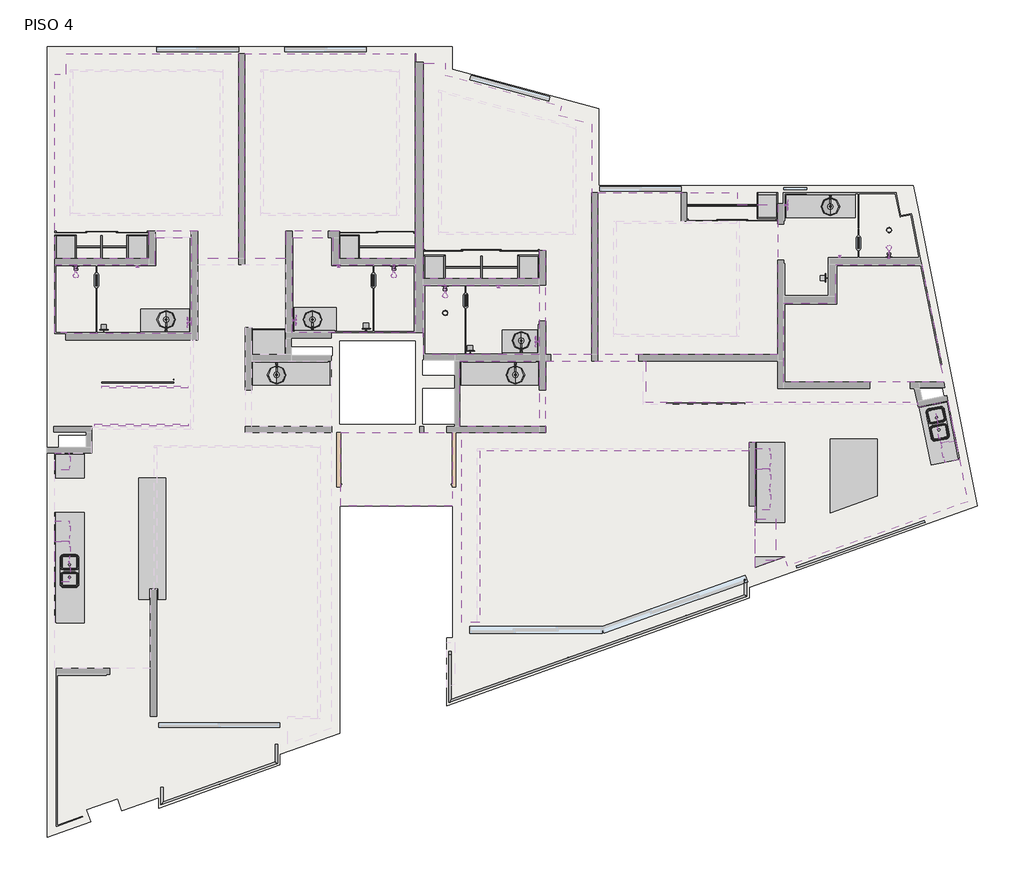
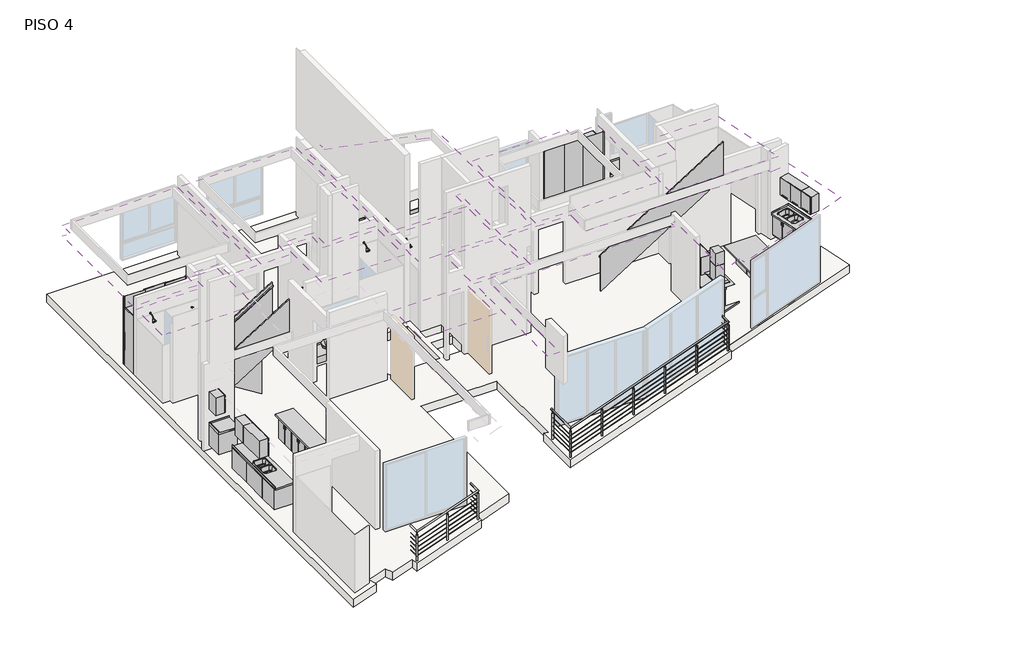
# One storey, part 3 of 3: 38 furniture elements, 36 flow terminals, 11 coverings, 6 railings, 1 proxy, 1 slab.
"""IFC4 building model written with IfcOpenShell, lengths in millimetres."""

from ifc_helpers import new_model, si_unit, frame, origin, place, context, project, spatial, polyline, outline, extrude, faceted_brep, transform, mapped, element, save
from components import specialty_equipment_e95493f8, flow_terminal_a2814962, flow_terminal_5cc0e8a1, flow_terminal_a7820e30, flow_terminal_68213279, flow_terminal_5f1bfaf6, flow_terminal_6c50e432, flow_terminal_979eccb3, flow_terminal_b4af5928, flow_terminal_bcb3a9d6, flow_terminal_02720d88, flow_terminal_70208929, flow_terminal_dbe0ad42, furniture_d9654537, furniture_f5ed3a1c, furniture_a8ddcfd3, furniture_af3adfe5, furniture_4c252591, furniture_695d730f, furniture_6c499260, furniture_ec71c28c, furniture_030b6b42, furniture_c1e19565, furniture_370_x_600_x_320_mm_8a8752ee, furniture_3900_mm_204c5ad0, furniture_450_x_600_x_320_mm_602578f4, furniture_450_x_600_x_320_mm_511ace29, furniture_450_x_600_x_320_mm_b980701e, furniture_550_mm_c334357f, furniture_576_mm_2875afa3, furniture_620_mm_497b6e52, furniture_680_mm_c6045463, furniture_7700_mm_prof_40_e6cee792, furniture_820_mm_546e8a10, furniture_900_mm_f7b05b38, furniture_900_x_600_x_320_mm_ed7ff752, furniture_900_x_600_x_320_mm_dd102760, furniture_900_x_600_x_320_mm_fdf49008, cl05_4e4fac43, cl2_closet_fc385fcd, cl3_closet_a3c0aced, cl7_closet_1ca2be92, cl8_closet_76781ce9, cubierta10_cubierta_a88932da, cubierta9_cubierta_ee915b3e, railing_adf64244, railing_0f025872, panel_de_vidrio_5a464c72, panel_de_vidrio_5ddb8d8d, panel_de_vidrio_1d52b6bb, panel_de_vidrio_07b2d974

model = new_model("IFC4")

# Units and contexts
model_context = context("Model", 3, world=origin())
ifc_project = project(units=[si_unit("LENGTHUNIT", "METRE", prefix="MILLI")], contexts=[model_context])

# Site, building, storey
site = spatial("IfcSite", under=ifc_project)
building = spatial("IfcBuilding", under=site)
storey = spatial("IfcBuildingStorey", under=building, Name="PISO 4", Elevation=12000.0)

# Proxy
placement = place(None, origin())
specialty_equipment_shape = specialty_equipment_e95493f8(model_context)
element("IfcBuildingElementProxy", 1, Name="Campana rectangular - muro : Campana rectangular - muro", ObjectType="Campana rectangular - muro : Campana rectangular - muro", at=placement, inside=storey, context=model_context, shape_type="MappedRepresentation", body=[
    mapped(specialty_equipment_shape, transform((49717.8559119, 27368.0993789, 12250.0), x_axis=(0.0, 1.0, 0.0), y_axis=(-1.0, 0.0, 0.0), z_axis=(0.0, 0.0, 1.0))),
])

# Coverings
element("IfcCovering", 2, ObjectType="Plafond Tablaroca", at=placement, inside=storey, context=model_context, shape_type="SweptSolid", body=[
    extrude(outline(polyline([(36214.5300226, 34168.9785701), (36214.5300226, 33568.9784839), (34143.8589874, 33568.9784839), (34143.8589874, 37625.4026232), (34398.8589874, 37625.4026232), (34398.8589874, 38080.4026232), (38194.5300226, 38080.4026232), (38194.5300226, 33568.9784839), (37294.5300226, 33568.9784839), (37294.5300226, 34168.9785701), (36214.5300226, 34168.9785701)]), holes=[polyline([(34543.8589874, 34568.9785701), (37794.5300226, 34568.9785701), (37794.5300226, 37680.4026232), (34543.8589874, 37680.4026232), (34543.8589874, 34568.9785701)])]), frame((0.0, 0.0, 14350.0), z_axis=(0.0, 0.0, 1.0), x_axis=(1.0, 0.0, 0.0)), (0.0, 0.0, 1.0), 52.7),
])
element("IfcCovering", 3, ObjectType="Plafond Tablaroca", at=placement, inside=storey, context=model_context, shape_type="SweptSolid", body=[
    extrude(outline(polyline([(38334.5300226, 38080.4026232), (42084.5059119, 38080.4026232), (42084.5059119, 33568.9784839), (40409.5059119, 33568.9784839), (40409.5059119, 34168.9785701), (39234.5300226, 34168.9785701), (39234.5300226, 33568.9784839), (38334.5300226, 33568.9784839), (38334.5300226, 38080.4026232)]), holes=[polyline([(38734.5300226, 37680.4026232), (38734.5300226, 34568.9785701), (41684.5059119, 34568.9785701), (41684.5059119, 37680.4026232), (38734.5300226, 37680.4026232)])]), frame((0.0, 0.0, 14350.0), z_axis=(0.0, 0.0, 1.0), x_axis=(1.0, 0.0, 0.0)), (0.0, 0.0, 1.0), 52.7),
])
element("IfcCovering", 4, ObjectType="Plafond Tablaroca", at=placement, inside=storey, context=model_context, shape_type="SweptSolid", body=[
    extrude(outline(polyline([(42084.5059119, 31933.9733508), (40329.5059119, 31933.9733508), (39374.5300226, 31933.9733508), (39374.5300226, 34028.9785701), (40269.5059119, 34028.9785701), (40269.5059119, 33428.9784839), (42084.5059119, 33428.9784839), (42084.5059119, 31933.9733508)])), frame((0.0, 0.0, 14350.0), z_axis=(0.0, 0.0, 1.0), x_axis=(1.0, 0.0, 0.0)), (0.0, 0.0, 1.0), 52.7),
])
element("IfcCovering", 5, ObjectType="Plafond Tablaroca", at=placement, inside=storey, context=model_context, shape_type="SweptSolid", body=[
    extrude(outline(polyline([(36354.5300226, 33428.9784839), (36354.5300226, 34028.9785701), (37149.5300226, 34028.9785701), (37154.5300226, 34028.9785701), (37154.5300226, 31908.9733508), (34403.8589874, 31908.9733508), (34403.8589874, 31928.9733508), (34143.8589874, 31928.9733508), (34143.8589874, 33428.9784839), (36354.5300226, 33428.9784839)])), frame((0.0, 0.0, 14350.0), z_axis=(0.0, 0.0, 1.0), x_axis=(1.0, 0.0, 0.0)), (0.0, 0.0, 1.0), 52.7),
])
element("IfcCovering", 6, ObjectType="Plafond Tablaroca", at=placement, inside=storey, context=model_context, shape_type="SweptSolid", body=[
    extrude(outline(polyline([(43014.5059119, 31444.0104755), (42279.5059119, 31444.0104755), (42279.5059119, 31838.9733508), (42264.5059119, 31838.9733508), (42264.5059119, 32984.0113856), (44824.5251366, 32984.0113856), (44824.5251366, 31444.0104755), (43014.5059119, 31444.0104755)])), frame((0.0, 0.0, 14350.0), z_axis=(0.0, 0.0, 1.0), x_axis=(1.0, 0.0, 0.0)), (0.0, 0.0, 1.0), 52.7),
])
element("IfcCovering", 7, ObjectType="Plafond Tablaroca", at=placement, inside=storey, context=model_context, shape_type="SweptSolid", body=[
    extrude(outline(polyline([(44824.5251366, 31304.0104755), (44824.5251366, 29864.010184), (43074.5059119, 29864.010184), (43074.5059119, 31304.0104755), (44824.5251366, 31304.0104755)])), frame((0.0, 0.0, 14350.0), z_axis=(0.0, 0.0, 1.0), x_axis=(1.0, 0.0, 0.0)), (0.0, 0.0, 1.0), 52.7),
])
element("IfcCovering", 8, ObjectType="Plafond Tablaroca", at=placement, inside=storey, context=model_context, shape_type="SweptSolid", body=[
    extrude(outline(polyline([(45253.4028147, 36725.1514674), (45974.5059119, 36531.2471191), (45974.5059119, 35104.0104642), (45974.5059119, 31444.0104696), (44964.5251366, 31444.0104696), (44964.5251366, 33744.0113905), (44824.5251366, 33744.0113905), (44824.5251366, 33124.0113856), (42264.5059119, 33124.0113856), (42264.5059119, 37875.4026232), (42744.5059119, 37875.4026232), (42744.5059119, 37612.0750171), (45306.6362479, 36923.1191455), (45253.4028147, 36725.1514674)]), holes=[polyline([(42664.5059119, 37219.3779563), (42664.5059119, 34144.0113905), (45574.5059119, 34144.0113905), (45574.5059119, 36436.8800645), (42664.5059119, 37219.3779563)])]), frame((0.0, 0.0, 14350.0), z_axis=(0.0, 0.0, 1.0), x_axis=(1.0, 0.0, 0.0)), (0.0, 0.0, 1.0), 52.7),
])
element("IfcCovering", 9, ObjectType="Plafond Tablaroca", at=placement, inside=storey, context=model_context, shape_type="SweptSolid", body=[
    extrude(outline(polyline([(46114.5059119, 31444.0104696), (46114.5059119, 35014.0104642), (49179.4822189, 35014.0104642), (49179.4822189, 34759.0104642), (50074.4822189, 34759.0104642), (50074.4822189, 31444.0104696), (46114.5059119, 31444.0104696)]), holes=[polyline([(46514.5059119, 34337.6604642), (46514.5059119, 31896.7104696), (49174.4822189, 31896.7104696), (49174.4822189, 34337.6604642), (46514.5059119, 34337.6604642)])]), frame((0.0, 0.0, 14350.0), z_axis=(0.0, 0.0, 1.0), x_axis=(1.0, 0.0, 0.0)), (0.0, 0.0, 1.0), 52.7),
])
element("IfcCovering", 10, ObjectType="Plafond Tablaroca", at=placement, inside=storey, context=model_context, shape_type="SweptSolid", body=[
    extrude(outline(polyline([(52931.8709868, 35014.0104642), (53221.2947578, 33568.9784839), (51214.4822189, 33568.9784839), (51214.4822189, 32724.0113781), (50214.4822189, 32724.0113781), (50214.4822189, 35014.0104642), (52931.8709868, 35014.0104642)])), frame((0.0, 0.0, 14350.0), z_axis=(0.0, 0.0, 1.0), x_axis=(1.0, 0.0, 0.0)), (0.0, 0.0, 1.0), 52.7),
    extrude(outline(polyline([(50214.4822189, 32584.0113781), (51354.4822189, 32584.0113781), (51354.4822189, 33428.9784839), (53249.3351946, 33428.9784839), (53689.1186644, 31233.2321699), (53659.7028791, 31227.3405166), (53736.479683, 30844.0100923), (50214.4822189, 30844.0100923), (50214.4822189, 32584.0113781)])), frame((0.0, 0.0, 14350.0), z_axis=(0.0, 0.0, 1.0), x_axis=(1.0, 0.0, 0.0)), (0.0, 0.0, 1.0), 52.7),
])
element("IfcCovering", 11, ObjectType="Plafond Tablaroca", at=placement, inside=storey, context=model_context, shape_type="Brep", body=[
    faceted_brep([(44964.5251366, 31304.0104696, 14402.7), (44964.5251366, 29724.010184, 14402.7), (43109.5059119, 29724.010184, 14402.7), (43109.5059119, 25545.2541962, 14402.7), (43509.5059119, 25545.2541962, 14402.7), (43509.5059119, 29324.010184, 14402.7), (49444.5059119, 29324.010184, 14402.7), (49444.5059119, 29504.0104696, 14402.7), (49584.5059119, 29504.0104696, 14402.7), (49584.5059119, 26757.929668, 14402.7), (50230.4085675, 26988.0993789, 14402.7), (50300.9007209, 26790.2841715, 14402.7), (54265.4326509, 28203.0592396, 14402.7), (53820.4344465, 30424.8416261, 14402.7), (53171.4946911, 30294.866239, 14402.7), (53160.1895419, 30351.3104696, 14402.7), (53149.6343204, 30404.0104696, 14402.7), (47170.8645778, 30404.0104696, 14402.7), (47170.8645778, 31304.0104696, 14402.7), (47118.1645778, 31304.0104696, 14402.7), (44964.5251366, 31304.0104696, 14350.0), (47170.8645778, 31304.0104696, 14350.0), (47170.8645778, 30404.0104696, 14350.0), (53149.6343204, 30404.0104696, 14350.0), (53171.4946911, 30294.866239, 14350.0), (53820.4344465, 30424.8416261, 14350.0), (54265.4326509, 28203.0592396, 14350.0), (50300.9007209, 26790.2841715, 14350.0), (50230.4085675, 26988.0993789, 14350.0), (49584.5059119, 26757.929668, 14350.0), (49584.5059119, 29504.0104696, 14350.0), (49444.5059119, 29504.0104696, 14350.0), (49444.5059119, 29324.010184, 14350.0), (43509.5059119, 29324.010184, 14350.0), (43509.5059119, 25545.2541962, 14350.0), (43109.5059119, 25545.2541962, 14350.0), (43109.5059119, 29724.010184, 14350.0), (44964.5251366, 29724.010184, 14350.0)], [[[0, 1, 2, 3, 4, 5, 6, 7, 8, 9, 10, 11, 12, 13, 14, 15, 16, 17, 18, 19]], [[20, 21, 22, 23, 24, 25, 26, 27, 28, 29, 30, 31, 32, 33, 34, 35, 36, 37]], [[1, 0, 20, 37]], [[6, 5, 33, 32]], [[7, 6, 32, 31]], [[8, 7, 31, 30]], [[9, 8, 30, 29]], [[10, 9, 29, 28]], [[11, 10, 28, 27]], [[12, 11, 27, 26]], [[17, 16, 23, 22]], [[18, 17, 22, 21]], [[0, 19, 18, 21, 20]], [[2, 1, 37, 36]], [[3, 2, 36, 35]], [[4, 3, 35, 34]], [[5, 4, 34, 33]], [[13, 12, 26, 25]], [[14, 13, 25, 24]], [[16, 15, 14, 24, 23]]]),
])
element("IfcCovering", 12, ObjectType="Plafond Tablaroca", at=placement, inside=storey, context=model_context, shape_type="SweptSolid", body=[
    extrude(outline(polyline([(42899.5059119, 29724.010184), (42899.5059119, 28111.0432167), (40444.5059119, 28111.0432167), (40444.5059119, 29724.010184), (42899.5059119, 29724.010184)])), frame((0.0, 0.0, 14350.0), z_axis=(0.0, 0.0, 1.0), x_axis=(1.0, 0.0, 0.0)), (0.0, 0.0, 1.0), 52.7),
])

# Flow terminals
flow_terminal_shape = flow_terminal_a2814962(model_context)
element("IfcFlowTerminal", 13, ObjectType="Ovalin sobreponer maia - vitromex : Accesorios_baño", at=placement, inside=storey, context=model_context, shape_type="MappedRepresentation", body=[
    mapped(flow_terminal_shape, transform((39824.5300226, 32218.9733508, 12000.0), x_axis=(0.0, 1.0, 0.0), y_axis=(-1.0, 0.0, 0.0), z_axis=(0.0, 0.0, 1.0))),
])
element("IfcFlowTerminal", 14, ObjectType="Ovalin sobreponer maia - vitromex : Accesorios_baño", at=placement, inside=storey, context=model_context, shape_type="MappedRepresentation", body=[
    mapped(flow_terminal_shape, transform((44294.5059119, 31001.9733508, 12000.0), x_axis=(0.0, -1.0, 0.0), y_axis=(1.0, 0.0, 0.0), z_axis=(0.0, 0.0, 1.0))),
])
element("IfcFlowTerminal", 15, ObjectType="Ovalin sobreponer maia - vitromex : Accesorios_baño", at=placement, inside=storey, context=model_context, shape_type="MappedRepresentation", body=[
    mapped(flow_terminal_shape, transform((44424.5034689, 31754.0104755, 12000.0), x_axis=(0.0, 1.0, 0.0), y_axis=(-1.0, 0.0, 0.0), z_axis=(0.0, 0.0, 1.0))),
])
element("IfcFlowTerminal", 16, ObjectType="Ovalin sobreponer maia - vitromex : Accesorios_baño", at=placement, inside=storey, context=model_context, shape_type="MappedRepresentation", body=[
    mapped(flow_terminal_shape, transform((51235.5561795, 34711.9733381, 12000.0), x_axis=(0.0, -1.0, 0.0), y_axis=(1.0, 0.0, 0.0), z_axis=(0.0, 0.0, 1.0))),
])
flow_terminal_2_shape = flow_terminal_5cc0e8a1(model_context)
element("IfcFlowTerminal", 17, ObjectType="monomando lavabo - tubo : monomando lavabo - tubo", at=placement, inside=storey, context=model_context, shape_type="MappedRepresentation", body=[
    mapped(flow_terminal_2_shape, transform((39824.5300226, 31978.9733508, 12000.0), x_axis=(-1.0, 0.0, 0.0), y_axis=(0.0, -1.0, 0.0), z_axis=(0.0, 0.0, 1.0))),
])
element("IfcFlowTerminal", 18, ObjectType="monomando lavabo - tubo : monomando lavabo - tubo", at=placement, inside=storey, context=model_context, shape_type="MappedRepresentation", body=[
    mapped(flow_terminal_2_shape, transform((44294.5059119, 31241.9733508, 12000.0), x_axis=(1.0, 0.0, 0.0), y_axis=(0.0, 1.0, 0.0), z_axis=(0.0, 0.0, 1.0))),
])
element("IfcFlowTerminal", 19, ObjectType="monomando lavabo - tubo : monomando lavabo - tubo", at=placement, inside=storey, context=model_context, shape_type="MappedRepresentation", body=[
    mapped(flow_terminal_2_shape, transform((44424.5034689, 31514.0104755, 12000.0), x_axis=(-1.0, 0.0, 0.0), y_axis=(0.0, -1.0, 0.0), z_axis=(0.0, 0.0, 1.0))),
])
element("IfcFlowTerminal", 20, ObjectType="monomando lavabo - tubo : monomando lavabo - tubo", at=placement, inside=storey, context=model_context, shape_type="MappedRepresentation", body=[
    mapped(flow_terminal_2_shape, transform((51235.5561795, 34951.9733381, 12000.0), x_axis=(1.0, 0.0, 0.0), y_axis=(0.0, 1.0, 0.0), z_axis=(0.0, 0.0, 1.0))),
])
flow_terminal_3_shape = flow_terminal_a7820e30(model_context)
element("IfcFlowTerminal", 21, ObjectType="monomando lavabo - tubo : monomando lavabo - tubo", at=placement, inside=storey, context=model_context, shape_type="MappedRepresentation", body=[
    mapped(flow_terminal_3_shape, transform((39034.5059119, 31241.9733508, 12000.0), x_axis=(-1.0, 0.0, 0.0), y_axis=(0.0, -1.0, 0.0), z_axis=(0.0, 0.0, 1.0))),
])
element("IfcFlowTerminal", 22, ObjectType="monomando lavabo - tubo : monomando lavabo - tubo", at=placement, inside=storey, context=model_context, shape_type="MappedRepresentation", body=[
    mapped(flow_terminal_3_shape, transform((36599.1945851, 31978.9733508, 12000.0), x_axis=(1.0, 0.0, 0.0), y_axis=(0.0, 1.0, 0.0), z_axis=(0.0, 0.0, 1.0))),
])
flow_terminal_4_shape = flow_terminal_68213279(model_context)
element("IfcFlowTerminal", 23, ObjectType="Ovalin sobreponer maia - vitromex : Accesorios_baño", at=placement, inside=storey, context=model_context, shape_type="MappedRepresentation", body=[
    mapped(flow_terminal_4_shape, transform((39034.5059119, 31001.9733508, 12000.0), x_axis=(0.0, -1.0, 0.0), y_axis=(1.0, 0.0, 0.0), z_axis=(0.0, 0.0, 1.0))),
])
element("IfcFlowTerminal", 24, ObjectType="Ovalin sobreponer maia - vitromex : Accesorios_baño", at=placement, inside=storey, context=model_context, shape_type="MappedRepresentation", body=[
    mapped(flow_terminal_4_shape, transform((36599.1945851, 32218.9733508, 12000.0), x_axis=(0.0, 1.0, 0.0), y_axis=(-1.0, 0.0, 0.0), z_axis=(0.0, 0.0, 1.0))),
])
flow_terminal_5_shape = flow_terminal_5f1bfaf6(model_context)
element("IfcFlowTerminal", 25, ObjectType="Regadera : Accesorios_baño", at=placement, inside=storey, context=model_context, shape_type="MappedRepresentation", body=[
    mapped(flow_terminal_5_shape, transform((34734.5300226, 33498.9784839, 12151.7905899), x_axis=(-1.0, 0.0, 0.0), y_axis=(0.0, -1.0, 0.0), z_axis=(0.0, 0.0, 1.0))),
])
flow_terminal_6_shape = flow_terminal_6c50e432(model_context)
element("IfcFlowTerminal", 26, ObjectType="Portarrollo Dica 1017 : Portarrollos Dica 1017", at=placement, inside=storey, context=model_context, shape_type="MappedRepresentation", body=[
    mapped(flow_terminal_6_shape, transform((35099.5300226, 31918.9733508, 12502.2787162), x_axis=(1.0, 0.0, 0.0), y_axis=(0.0, 1.0, 0.0), z_axis=(0.0, 0.0, 1.0))),
])
element("IfcFlowTerminal", 27, ObjectType="Portarrollo Dica 1017 : Portarrollos Dica 1017", at=placement, inside=storey, context=model_context, shape_type="MappedRepresentation", body=[
    mapped(flow_terminal_6_shape, transform((40879.5059119, 31943.9733508, 12502.2787162), x_axis=(1.0, 0.0, 0.0), y_axis=(0.0, 1.0, 0.0), z_axis=(0.0, 0.0, 1.0))),
])
element("IfcFlowTerminal", 28, ObjectType="Portarrollo Dica 1017 : Portarrollos Dica 1017", at=placement, inside=storey, context=model_context, shape_type="MappedRepresentation", body=[
    mapped(flow_terminal_6_shape, transform((51204.4822189, 33009.0113781, 12502.2787162), x_axis=(0.0, 1.0, 0.0), y_axis=(-1.0, 0.0, 0.0), z_axis=(0.0, 0.0, 1.0))),
])
element("IfcFlowTerminal", 29, ObjectType="Portarrollo Dica 1017 : Portarrollos Dica 1017", at=placement, inside=storey, context=model_context, shape_type="MappedRepresentation", body=[
    mapped(flow_terminal_6_shape, transform((43174.5059119, 31454.0104755, 12502.2787162), x_axis=(1.0, 0.0, 0.0), y_axis=(0.0, 1.0, 0.0), z_axis=(0.0, 0.0, 1.0))),
])
flow_terminal_7_shape = flow_terminal_979eccb3(model_context)
element("IfcFlowTerminal", 30, ObjectType="Monomando Dica 4473.9 : Accesorios_baño", at=placement, inside=storey, context=model_context, shape_type="MappedRepresentation", body=[
    mapped(flow_terminal_7_shape, transform((34734.5300226, 33418.9784839, 12000.0), x_axis=(-1.0, 0.0, 0.0), y_axis=(0.0, -1.0, 0.0), z_axis=(0.0, 0.0, 1.0))),
])
element("IfcFlowTerminal", 31, ObjectType="Monomando Dica 4473.9 : Accesorios_baño", at=placement, inside=storey, context=model_context, shape_type="MappedRepresentation", body=[
    mapped(flow_terminal_7_shape, transform((41742.2559119, 33418.9784839, 12000.0), x_axis=(-1.0, 0.0, 0.0), y_axis=(0.0, -1.0, 0.0), z_axis=(0.0, 0.0, 1.0))),
])
element("IfcFlowTerminal", 32, ObjectType="Monomando Dica 4473.9 : Accesorios_baño", at=placement, inside=storey, context=model_context, shape_type="MappedRepresentation", body=[
    mapped(flow_terminal_7_shape, transform((52404.6417693, 33578.9784839, 12000.0), x_axis=(1.0, 0.0, 0.0), y_axis=(0.0, 1.0, 0.0), z_axis=(0.0, 0.0, 1.0))),
])
element("IfcFlowTerminal", 33, ObjectType="Monomando Dica 4473.9 : Accesorios_baño", at=placement, inside=storey, context=model_context, shape_type="MappedRepresentation", body=[
    mapped(flow_terminal_7_shape, transform((42871.7559119, 32974.0113856, 12000.0), x_axis=(-1.0, 0.0, 0.0), y_axis=(0.0, -1.0, 0.0), z_axis=(0.0, 0.0, 1.0))),
])
flow_terminal_8_shape = flow_terminal_b4af5928(model_context)
element("IfcFlowTerminal", 34, ObjectType="Coladera : COLADERA PARA REGADERA", at=placement, inside=storey, context=model_context, shape_type="MappedRepresentation", body=[
    mapped(flow_terminal_8_shape, transform((52529.6417693, 34191.7697606, 12000.0), x_axis=(1.0, 0.0, 0.0), y_axis=(0.0, 1.0, 0.0), z_axis=(0.0, 0.0, 1.0))),
])
flow_terminal_9_shape = flow_terminal_bcb3a9d6(model_context)
element("IfcFlowTerminal", 35, ObjectType="Toallero gancho Dica 1006 : Toallero gancho Dica 1006", at=placement, inside=storey, context=model_context, shape_type="MappedRepresentation", body=[
    mapped(flow_terminal_9_shape, transform((40524.5059119, 33418.9784839, 13795.0), x_axis=(-1.0, 0.0, 0.0), y_axis=(0.0, -1.0, 0.0), z_axis=(0.0, 0.0, 1.0))),
])
element("IfcFlowTerminal", 36, ObjectType="Toallero gancho Dica 1006 : Toallero gancho Dica 1006", at=placement, inside=storey, context=model_context, shape_type="MappedRepresentation", body=[
    mapped(flow_terminal_9_shape, transform((51319.4822189, 33578.9784839, 13795.0), x_axis=(1.0, 0.0, 0.0), y_axis=(0.0, 1.0, 0.0), z_axis=(0.0, 0.0, 1.0))),
])
element("IfcFlowTerminal", 37, ObjectType="Toallero gancho Dica 1006 : Toallero gancho Dica 1006", at=placement, inside=storey, context=model_context, shape_type="MappedRepresentation", body=[
    mapped(flow_terminal_9_shape, transform((36089.5300226, 33418.9784839, 13795.0), x_axis=(-1.0, 0.0, 0.0), y_axis=(0.0, -1.0, 0.0), z_axis=(0.0, 0.0, 1.0))),
])
element("IfcFlowTerminal", 38, ObjectType="Toallero gancho Dica 1006 : Toallero gancho Dica 1006", at=placement, inside=storey, context=model_context, shape_type="MappedRepresentation", body=[
    mapped(flow_terminal_9_shape, transform((44044.5059119, 32974.0113856, 13795.0), x_axis=(-1.0, 0.0, 0.0), y_axis=(0.0, -1.0, 0.0), z_axis=(0.0, 0.0, 1.0))),
])
element("IfcFlowTerminal", 39, ObjectType="Regadera : Accesorios_baño", at=placement, inside=storey, context=model_context, shape_type="MappedRepresentation", body=[
    mapped(flow_terminal_5_shape, transform((42871.7559119, 33054.0113856, 12151.7905899), x_axis=(-1.0, 0.0, 0.0), y_axis=(0.0, -1.0, 0.0), z_axis=(0.0, 0.0, 1.0))),
])
flow_terminal_10_shape = flow_terminal_02720d88(model_context)
element("IfcFlowTerminal", 40, ObjectType="Toallero Dica 1009 : Toallero Dica manos 1009", at=placement, inside=storey, context=model_context, shape_type="MappedRepresentation", body=[
    mapped(flow_terminal_10_shape, transform((39384.5300226, 32328.9733508, 13548.657459), x_axis=(0.0, -1.0, 0.0), y_axis=(1.0, 0.0, 0.0), z_axis=(0.0, 0.0, 1.0))),
])
element("IfcFlowTerminal", 41, ObjectType="Toallero Dica 1009 : Toallero Dica manos 1009", at=placement, inside=storey, context=model_context, shape_type="MappedRepresentation", body=[
    mapped(flow_terminal_10_shape, transform((50224.4822189, 34869.0104642, 13548.657459), x_axis=(0.0, -1.0, 0.0), y_axis=(1.0, 0.0, 0.0), z_axis=(0.0, 0.0, 1.0))),
])
element("IfcFlowTerminal", 42, ObjectType="Toallero Dica 1009 : Toallero Dica manos 1009", at=placement, inside=storey, context=model_context, shape_type="MappedRepresentation", body=[
    mapped(flow_terminal_10_shape, transform((37144.5300226, 32033.9733508, 13548.657459), x_axis=(0.0, 1.0, 0.0), y_axis=(-1.0, 0.0, 0.0), z_axis=(0.0, 0.0, 1.0))),
])
element("IfcFlowTerminal", 43, ObjectType="Toallero Dica 1009 : Toallero Dica manos 1009", at=placement, inside=storey, context=model_context, shape_type="MappedRepresentation", body=[
    mapped(flow_terminal_10_shape, transform((44814.5251366, 31609.0104755, 13548.657459), x_axis=(0.0, 1.0, 0.0), y_axis=(-1.0, 0.0, 0.0), z_axis=(0.0, 0.0, 1.0))),
])
flow_terminal_11_shape = flow_terminal_70208929(model_context)
element("IfcFlowTerminal", 44, ObjectType="Regadera : Accesorios_baño", at=placement, inside=storey, context=model_context, shape_type="MappedRepresentation", body=[
    mapped(flow_terminal_11_shape, transform((41492.0059119, 33498.9784839, 12151.7905899), x_axis=(1.0, 0.0, 0.0), y_axis=(0.0, 1.0, 0.0), z_axis=(0.0, 0.0, 1.0))),
])
element("IfcFlowTerminal", 45, ObjectType="Regadera : Accesorios_baño", at=placement, inside=storey, context=model_context, shape_type="MappedRepresentation", body=[
    mapped(flow_terminal_11_shape, transform((52654.6417693, 33498.9784839, 12151.7905899), x_axis=(-1.0, 0.0, 0.0), y_axis=(0.0, -1.0, 0.0), z_axis=(0.0, 0.0, 1.0))),
])
element("IfcFlowTerminal", 46, ObjectType="Coladera : COLADERA PARA REGADERA", at=placement, inside=storey, context=model_context, shape_type="MappedRepresentation", body=[
    mapped(flow_terminal_8_shape, transform((42746.7559119, 32364.0113856, 12000.0), x_axis=(1.0, 0.0, 0.0), y_axis=(0.0, 1.0, 0.0), z_axis=(0.0, 0.0, 1.0))),
])
flow_terminal_12_shape = flow_terminal_dbe0ad42(model_context)
element("IfcFlowTerminal", 47, ObjectType="Tarja Teka subm BE 780 : TARJA PARA COCINA", at=placement, inside=storey, context=model_context, shape_type="MappedRepresentation", body=[
    mapped(flow_terminal_12_shape, transform((53571.4107011, 29973.3328781, 11962.9), x_axis=(0.19638844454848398, -0.9805261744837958, 0.0), y_axis=(0.9805261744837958, 0.19638844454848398, 0.0), z_axis=(0.0, 0.0, 1.0))),
])
element("IfcFlowTerminal", 48, ObjectType="Tarja Teka subm BE 780 : TARJA PARA COCINA", at=placement, inside=storey, context=model_context, shape_type="MappedRepresentation", body=[
    mapped(flow_terminal_12_shape, transform((34489.2043886, 26620.3209435, 11962.9), x_axis=(0.0, 1.0000000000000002, 0.0), y_axis=(-1.0000000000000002, 0.0, 0.0), z_axis=(0.0, 0.0, 1.0))),
])

# Furniture
furniture_shape = furniture_d9654537(model_context)
element("IfcFurniture", 49, ObjectType="Mueble con faldon sin cajones - lavabo sobreponer : MB8-mueble baño colgado- 1.75cm", at=placement, inside=storey, context=model_context, shape_type="MappedRepresentation", body=[
    mapped(furniture_shape, transform((39484.5059119, 31364.0104769, 12000.0), x_axis=(-1.0, 0.0, 0.0), y_axis=(0.0, -1.0, 0.0), z_axis=(0.0, 0.0, 1.0))),
])
furniture_2_shape = furniture_f5ed3a1c(model_context)
element("IfcFurniture", 50, ObjectType="Puerta Closet corre 3 hojas : Puerta corrdiza 3 hojas PCL-07", at=placement, inside=storey, context=model_context, shape_type="MappedRepresentation", body=[
    mapped(furniture_2_shape, transform((35433.8589874, 34048.9785701, 12000.0), x_axis=(1.0, 0.0, 0.0), y_axis=(0.0, 1.0, 0.0), z_axis=(0.0, 0.0, 1.0))),
])
furniture_3_shape = furniture_a8ddcfd3(model_context)
element("IfcFurniture", 51, ObjectType="Puerta Closet corre 3 hojas : Puerta corrdiza 3 hojas PCL-02", at=placement, inside=storey, context=model_context, shape_type="MappedRepresentation", body=[
    mapped(furniture_3_shape, transform((43554.5251366, 33644.0113856, 12000.0), x_axis=(1.0, 0.0, 0.0), y_axis=(0.0, 1.0, 0.0), z_axis=(0.0, 0.0, 1.0))),
])
furniture_4_shape = furniture_af3adfe5(model_context)
element("IfcFurniture", 52, ObjectType="Puerta Closet corre 2 hojas : Puerta corrdiza 2 hojas", at=placement, inside=storey, context=model_context, shape_type="MappedRepresentation", body=[
    mapped(furniture_4_shape, transform((41784.5059119, 34048.9785701, 12000.0), x_axis=(1.0, 0.0, 0.0), y_axis=(0.0, 1.0, 0.0), z_axis=(0.0, 0.0, 1.0))),
])
furniture_5_shape = furniture_4c252591(model_context)
element("IfcFurniture", 53, ObjectType="Puerta Closet corre 3 hojas : Puerta corrdiza 3 hojas PCL-08", at=placement, inside=storey, context=model_context, shape_type="MappedRepresentation", body=[
    mapped(furniture_5_shape, transform((49361.9059119, 34310.3604642, 12000.0), x_axis=(1.0, 0.0, 0.0), y_axis=(0.0, 1.0, 0.0), z_axis=(0.0, 0.0, 1.0))),
])
furniture_6_shape = furniture_695d730f(model_context)
element("IfcFurniture", 54, ObjectType="Mueble colgado 1 cajon - lavabo sobreponer : MB4-mueble baño colgado-1 cajon 80 cm", at=placement, inside=storey, context=model_context, shape_type="MappedRepresentation", body=[
    mapped(furniture_6_shape, transform((44279.5251366, 31454.0104755, 12000.0), x_axis=(1.0, 0.0, 0.0), y_axis=(0.0, 1.0, 0.0), z_axis=(0.0, 0.0, 1.0))),
])
furniture_7_shape = furniture_6c499260(model_context)
element("IfcFurniture", 55, ObjectType="Mueble colgado 1 cajon - lavabo sobreponer : MB1-mueble baño colgado-1 cajon - 90cm", at=placement, inside=storey, context=model_context, shape_type="MappedRepresentation", body=[
    mapped(furniture_7_shape, transform((39744.5300226, 31943.9733508, 12000.0), x_axis=(1.0, 0.0, 0.0), y_axis=(0.0, 1.0, 0.0), z_axis=(0.0, 0.0, 1.0))),
])
furniture_8_shape = furniture_ec71c28c(model_context)
element("IfcFurniture", 56, ObjectType="Mueble colgado 2 cajones al lado - lavabo sobreponer : MB5-mueble baño colgado-2 cajones al lado 110 cm", at=placement, inside=storey, context=model_context, shape_type="MappedRepresentation", body=[
    mapped(furniture_8_shape, transform((36459.5300226, 31918.9733508, 12000.0), x_axis=(1.0, 0.0, 0.0), y_axis=(0.0, 1.0, 0.0), z_axis=(0.0, 0.0, 1.0))),
])
furniture_9_shape = furniture_030b6b42(model_context)
element("IfcFurniture", 57, ObjectType="Mueble colgado 2 cajones al lado - lavabo sobreponer : MB2-mueble baño colgado-2 cajones al lado 150", at=placement, inside=storey, context=model_context, shape_type="MappedRepresentation", body=[
    mapped(furniture_9_shape, transform((51134.4822189, 35004.0104642, 12000.0), x_axis=(-1.0, 0.0, 0.0), y_axis=(0.0, -1.0, 0.0), z_axis=(0.0, 0.0, 1.0))),
])
furniture_10_shape = furniture_c1e19565(model_context)
element("IfcFurniture", 58, ObjectType="Mueble con faldon sin cajones - lavabo sobreponer : MB8-mueble baño colgado- 1.75cm", at=placement, inside=storey, context=model_context, shape_type="MappedRepresentation", body=[
    mapped(furniture_10_shape, transform((44074.5251366, 31374.0104755, 12000.0), x_axis=(-1.0, 0.0, 0.0), y_axis=(0.0, -1.0, 0.0), z_axis=(0.0, 0.0, 1.0))),
])
furniture_370_x_600_x_320_mm_shape = furniture_370_x_600_x_320_mm_8a8752ee(model_context)
element("IfcFurniture", 59, ObjectType="Armario superior - Puerta simple : 370 x 600 x 320 mm", at=placement, inside=storey, context=model_context, shape_type="MappedRepresentation", body=[
    mapped(furniture_370_x_600_x_320_mm_shape, transform((34053.8589874, 28914.010184, 12000.0), x_axis=(0.0, 1.0, 0.0), y_axis=(-1.0, 0.0, 0.0), z_axis=(0.0, 0.0, 1.0))),
])
furniture_3900_mm_shape = furniture_3900_mm_204c5ad0(model_context)
element("IfcFurniture", 60, ObjectType="Armario 3 cajones : 3900 mm", at=placement, inside=storey, context=model_context, shape_type="MappedRepresentation", body=[
    mapped(furniture_3900_mm_shape, transform((54031.7999245, 29369.5382752, 12000.0), x_axis=(0.19638844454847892, -0.9805261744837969, 0.0), y_axis=(0.9805261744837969, 0.19638844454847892, 0.0), z_axis=(0.0, 0.0, 1.0))),
])
furniture_450_x_600_x_320_mm_shape = furniture_450_x_600_x_320_mm_602578f4(model_context)
element("IfcFurniture", 61, ObjectType="Armario superior - Puerta simple : 450 x 600 x 320 mm", at=placement, inside=storey, context=model_context, shape_type="MappedRepresentation", body=[
    mapped(furniture_450_x_600_x_320_mm_shape, transform((34053.8589874, 27732.4819737, 12000.0), x_axis=(0.0, -1.0, 0.0), y_axis=(1.0, 0.0, 0.0), z_axis=(0.0, 0.0, 1.0))),
])
furniture_450_x_600_x_320_mm_2_shape = furniture_450_x_600_x_320_mm_511ace29(model_context)
element("IfcFurniture", 62, ObjectType="Armario superior - Puerta simple : 450 x 600 x 320 mm", at=placement, inside=storey, context=model_context, shape_type="MappedRepresentation", body=[
    mapped(furniture_450_x_600_x_320_mm_2_shape, transform((54079.6530328, 29181.537269, 12000.0), x_axis=(-0.1963884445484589, 0.9805261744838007, 0.0), y_axis=(-0.9805261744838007, -0.1963884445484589, 0.0), z_axis=(0.0, 0.0, 1.0))),
])
furniture_450_x_600_x_320_mm_3_shape = furniture_450_x_600_x_320_mm_b980701e(model_context)
element("IfcFurniture", 63, ObjectType="Armario superior - Puerta simple : 450 x 600 x 320 mm", at=placement, inside=storey, context=model_context, shape_type="MappedRepresentation", body=[
    mapped(furniture_450_x_600_x_320_mm_3_shape, transform((49514.5059119, 29324.0104696, 12000.0), x_axis=(0.0, -1.0, 0.0), y_axis=(1.0, 0.0, 0.0), z_axis=(0.0, 0.0, 1.0))),
])
furniture_550_mm_shape = furniture_550_mm_c334357f(model_context)
element("IfcFurniture", 64, ObjectType="Armario-Una puerta : 550 mm", at=placement, inside=storey, context=model_context, shape_type="MappedRepresentation", body=[
    mapped(furniture_550_mm_shape, transform((34143.8589874, 29017.7478889, 12000.0), x_axis=(0.0, -1.0, 0.0), y_axis=(1.0, 0.0, 0.0), z_axis=(0.0, 0.0, 1.0))),
])
furniture_576_mm_shape = furniture_576_mm_2875afa3(model_context)
element("IfcFurniture", 65, ObjectType="Armario-Una puerta : 576 mm", at=placement, inside=storey, context=model_context, shape_type="MappedRepresentation", body=[
    mapped(furniture_576_mm_shape, transform((49599.5059119, 28017.361674, 12000.0), x_axis=(0.0, 1.0, 0.0), y_axis=(-1.0, 0.0, 0.0), z_axis=(0.0, 0.0, 1.0))),
])
element("IfcFurniture", 66, ObjectType="Armario-Una puerta : 576 mm", at=placement, inside=storey, context=model_context, shape_type="MappedRepresentation", body=[
    mapped(furniture_576_mm_shape, transform((49599.5059119, 28593.361674, 12000.0), x_axis=(0.0, 1.0, 0.0), y_axis=(-1.0, 0.0, 0.0), z_axis=(0.0, 0.0, 1.0))),
])
element("IfcFurniture", 67, ObjectType="Armario-Una puerta : 576 mm", at=placement, inside=storey, context=model_context, shape_type="MappedRepresentation", body=[
    mapped(furniture_576_mm_shape, transform((49599.5059119, 29169.361674, 12000.0), x_axis=(0.0, 1.0, 0.0), y_axis=(-1.0, 0.0, 0.0), z_axis=(0.0, 0.0, 1.0))),
])
furniture_620_mm_shape = furniture_620_mm_497b6e52(model_context)
element("IfcFurniture", 68, ObjectType="Armario-Una puerta : 620 mm", at=placement, inside=storey, context=model_context, shape_type="MappedRepresentation", body=[
    mapped(furniture_620_mm_shape, transform((51906.952037, 29556.3567503, 12000.0), x_axis=(1.0, 0.0, 0.0), y_axis=(0.0, 1.0, 0.0), z_axis=(0.0, 0.0, 1.0))),
])
element("IfcFurniture", 69, ObjectType="Armario-Una puerta : 620 mm", at=placement, inside=storey, context=model_context, shape_type="MappedRepresentation", body=[
    mapped(furniture_620_mm_shape, transform((51906.952037, 28956.3567503, 12000.0), x_axis=(1.0, 0.0, 0.0), y_axis=(0.0, 1.0, 0.0), z_axis=(0.0, 0.0, 1.0))),
])
furniture_680_mm_shape = furniture_680_mm_c6045463(model_context)
element("IfcFurniture", 70, ObjectType="Armario 3 cajones : 680 mm", at=placement, inside=storey, context=model_context, shape_type="MappedRepresentation", body=[
    mapped(furniture_680_mm_shape, transform((34143.8589874, 25922.7478889, 12000.0), x_axis=(0.0, -1.0, 0.0), y_axis=(1.0, 0.0, 0.0), z_axis=(0.0, 0.0, 1.0))),
])
furniture_7700_mm_prof_40_shape = furniture_7700_mm_prof_40_e6cee792(model_context)
element("IfcFurniture", 71, ObjectType="Armario-Puerta doble Unidad de fregadero : 7700 mm - prof 40", at=placement, inside=storey, context=model_context, shape_type="MappedRepresentation", body=[
    mapped(furniture_7700_mm_prof_40_shape, transform((36423.8589874, 26672.7553238, 12000.0), x_axis=(0.0, -1.0, 0.0), y_axis=(1.0, 0.0, 0.0), z_axis=(0.0, 0.0, 1.0))),
])
element("IfcFurniture", 72, ObjectType="Armario-Puerta doble Unidad de fregadero : 7700 mm - prof 40", at=placement, inside=storey, context=model_context, shape_type="MappedRepresentation", body=[
    mapped(furniture_7700_mm_prof_40_shape, transform((36423.8589874, 27442.7553238, 12000.0), x_axis=(0.0, -1.0, 0.0), y_axis=(1.0, 0.0, 0.0), z_axis=(0.0, 0.0, 1.0))),
])
element("IfcFurniture", 73, ObjectType="Armario-Puerta doble Unidad de fregadero : 7700 mm - prof 40", at=placement, inside=storey, context=model_context, shape_type="MappedRepresentation", body=[
    mapped(furniture_7700_mm_prof_40_shape, transform((36423.8589874, 28212.7553238, 12000.0), x_axis=(0.0, -1.0, 0.0), y_axis=(1.0, 0.0, 0.0), z_axis=(0.0, 0.0, 1.0))),
])
furniture_820_mm_shape = furniture_820_mm_546e8a10(model_context)
element("IfcFurniture", 74, ObjectType="Armario-Puerta doble Unidad de fregadero : 820 mm", at=placement, inside=storey, context=model_context, shape_type="MappedRepresentation", body=[
    mapped(furniture_820_mm_shape, transform((34143.8589874, 27535.2724791, 12000.0), x_axis=(0.0, 1.0, 0.0), y_axis=(-1.0, 0.0, 0.0), z_axis=(0.0, 0.0, 1.0))),
])
furniture_900_mm_shape = furniture_900_mm_f7b05b38(model_context)
element("IfcFurniture", 75, ObjectType="Armario-Puerta doble Unidad de fregadero : 900 mm", at=placement, inside=storey, context=model_context, shape_type="MappedRepresentation", body=[
    mapped(furniture_900_mm_shape, transform((53905.1293778, 30001.9776577, 12000.0), x_axis=(0.1963884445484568, -0.9805261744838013, 0.0), y_axis=(0.9805261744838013, 0.1963884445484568, 0.0), z_axis=(0.0, 0.0, 1.0))),
])
element("IfcFurniture", 76, ObjectType="Armario-Puerta doble Unidad de fregadero : 900 mm", at=placement, inside=storey, context=model_context, shape_type="MappedRepresentation", body=[
    mapped(furniture_900_mm_shape, transform((34143.8589874, 26675.2724791, 12000.0), x_axis=(0.0, 1.0, 0.0), y_axis=(-1.0, 0.0, 0.0), z_axis=(0.0, 0.0, 1.0))),
])
furniture_900_x_600_x_320_mm_shape = furniture_900_x_600_x_320_mm_ed7ff752(model_context)
element("IfcFurniture", 77, ObjectType="Armario superior - Puerta doble : 900 x 600 x 320 mm", at=placement, inside=storey, context=model_context, shape_type="MappedRepresentation", body=[
    mapped(furniture_900_x_600_x_320_mm_shape, transform((49514.5059119, 28649.0104696, 12000.0), x_axis=(0.0, -1.0, 0.0), y_axis=(1.0, 0.0, 0.0), z_axis=(0.0, 0.0, 1.0))),
])
furniture_900_x_600_x_320_mm_2_shape = furniture_900_x_600_x_320_mm_dd102760(model_context)
element("IfcFurniture", 78, ObjectType="Armario superior - Puerta doble : 900 x 600 x 320 mm", at=placement, inside=storey, context=model_context, shape_type="MappedRepresentation", body=[
    mapped(furniture_900_x_600_x_320_mm_2_shape, transform((34053.8589874, 27057.4819737, 12000.0), x_axis=(0.0, -1.0, 0.0), y_axis=(1.0, 0.0, 0.0), z_axis=(0.0, 0.0, 1.0))),
])
furniture_900_x_600_x_320_mm_3_shape = furniture_900_x_600_x_320_mm_fdf49008(model_context)
element("IfcFurniture", 79, ObjectType="Armario superior - Puerta doble : 900 x 600 x 320 mm", at=placement, inside=storey, context=model_context, shape_type="MappedRepresentation", body=[
    mapped(furniture_900_x_600_x_320_mm_3_shape, transform((53952.982486, 29813.9766515, 12000.0), x_axis=(-0.1963884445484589, 0.9805261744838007, 0.0), y_axis=(-0.9805261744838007, -0.1963884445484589, 0.0), z_axis=(0.0, 0.0, 1.0))),
])
cl05_shape = cl05_4e4fac43(model_context)
element("IfcFurniture", 80, ObjectType="Closet 5cajones-inf_2puertas-sup : CL05", at=placement, inside=storey, context=model_context, shape_type="MappedRepresentation", body=[
    mapped(cl05_shape, transform((38859.5300226, 32044.0104769, 12000.0), x_axis=(-1.0, 0.0, 0.0), y_axis=(0.0, -1.0, 0.0), z_axis=(0.0, 0.0, 1.0))),
])
cl2_closet_shape = cl2_closet_fc385fcd(model_context)
element("IfcFurniture", 81, ObjectType="Closet 2estantes-2tubos-centro_sin lateral : CL2-CLOSET", at=placement, inside=storey, context=model_context, shape_type="MappedRepresentation", body=[
    mapped(cl2_closet_shape, transform((42505.9004032, 33724.0113856, 12000.0), x_axis=(-1.0, 0.0, 0.0), y_axis=(0.0, -1.0, 0.0), z_axis=(0.0, 0.0, 1.0))),
])
cl3_closet_shape = cl3_closet_a3c0aced(model_context)
element("IfcFurniture", 82, ObjectType="Closet 1estantes-1tubos_sin laterales : CL3-CLOSET", at=placement, inside=storey, context=model_context, shape_type="MappedRepresentation", body=[
    mapped(cl3_closet_shape, transform((40634.5059119, 34168.9784839, 12000.0), x_axis=(-1.0, 0.0, 0.0), y_axis=(0.0, -1.0, 0.0), z_axis=(0.0, 0.0, 1.0))),
])
cl7_closet_shape = cl7_closet_1ca2be92(model_context)
element("IfcFurniture", 83, ObjectType="Closet 2estantes-2tubos-centro_sin lateral : CL7-CLOSET", at=placement, inside=storey, context=model_context, shape_type="MappedRepresentation", body=[
    mapped(cl7_closet_shape, transform((34382.4837209, 34168.9784839, 12000.0), x_axis=(-1.0, 0.0, 0.0), y_axis=(0.0, -1.0, 0.0), z_axis=(0.0, 0.0, 1.0))),
])
cl8_closet_shape = cl8_closet_76781ce9(model_context)
element("IfcFurniture", 84, ObjectType="Closet 1estantes-1tubos_sin laterales : CL8-CLOSET", at=placement, inside=storey, context=model_context, shape_type="MappedRepresentation", body=[
    mapped(cl8_closet_shape, transform((49849.4822189, 34364.0104642, 12000.0), x_axis=(1.0, 0.0, 0.0), y_axis=(0.0, 1.0, 0.0), z_axis=(0.0, 0.0, 1.0))),
])
cubierta10_cubierta_shape = cubierta10_cubierta_a88932da(model_context)
element("IfcFurniture", 85, ObjectType="Cubierta10 : Cubierta", at=placement, inside=storey, context=model_context, shape_type="MappedRepresentation", body=[
    mapped(cubierta10_cubierta_shape, transform((0.0, 0.0, 0.0), x_axis=(1.0, 0.0, 0.0), y_axis=(0.0, 1.0, 0.0), z_axis=(0.0, 0.0, 1.0))),
])
cubierta9_cubierta_shape = cubierta9_cubierta_ee915b3e(model_context)
element("IfcFurniture", 86, ObjectType="Cubierta9 : Cubierta", at=placement, inside=storey, context=model_context, shape_type="MappedRepresentation", body=[
    mapped(cubierta9_cubierta_shape, transform((0.0, 0.0, 0.0), x_axis=(1.0, 0.0, 0.0), y_axis=(0.0, 1.0, 0.0), z_axis=(0.0, 0.0, 1.0))),
])

# Railings
railing_shape = railing_adf64244(model_context)
element("IfcRailing", 87, ObjectType="Barandal general", at=placement, inside=storey, context=model_context, shape_type="MappedRepresentation", body=[
    mapped(railing_shape, transform((0.0, 0.0, 0.0), x_axis=(1.0, 0.0, 0.0), y_axis=(0.0, 1.0, 0.0), z_axis=(0.0, 0.0, 1.0))),
])
railing_2_shape = railing_0f025872(model_context)
element("IfcRailing", 88, ObjectType="Barandal general 2 sin inicio", at=placement, inside=storey, context=model_context, shape_type="MappedRepresentation", body=[
    mapped(railing_2_shape, transform((0.0, 0.0, 0.0), x_axis=(1.0, 0.0, 0.0), y_axis=(0.0, 1.0, 0.0), z_axis=(0.0, 0.0, 1.0))),
])
panel_de_vidrio_shape = panel_de_vidrio_5a464c72(model_context)
element("IfcRailing", 89, ObjectType="Panel de vidrio", at=placement, inside=storey, context=model_context, shape_type="MappedRepresentation", body=[
    mapped(panel_de_vidrio_shape, transform((0.0, 0.0, 0.0), x_axis=(1.0, 0.0, 0.0), y_axis=(0.0, 1.0, 0.0), z_axis=(0.0, 0.0, 1.0))),
])
panel_de_vidrio_2_shape = panel_de_vidrio_5ddb8d8d(model_context)
element("IfcRailing", 90, ObjectType="Panel de vidrio", at=placement, inside=storey, context=model_context, shape_type="MappedRepresentation", body=[
    mapped(panel_de_vidrio_2_shape, transform((0.0, 0.0, 0.0), x_axis=(1.0, 0.0, 0.0), y_axis=(0.0, 1.0, 0.0), z_axis=(0.0, 0.0, 1.0))),
])
panel_de_vidrio_3_shape = panel_de_vidrio_1d52b6bb(model_context)
element("IfcRailing", 91, ObjectType="Panel de vidrio", at=placement, inside=storey, context=model_context, shape_type="MappedRepresentation", body=[
    mapped(panel_de_vidrio_3_shape, transform((0.0, 0.0, 0.0), x_axis=(1.0, 0.0, 0.0), y_axis=(0.0, 1.0, 0.0), z_axis=(0.0, 0.0, 1.0))),
])
panel_de_vidrio_4_shape = panel_de_vidrio_07b2d974(model_context)
element("IfcRailing", 92, ObjectType="Panel de vidrio", at=placement, inside=storey, context=model_context, shape_type="MappedRepresentation", body=[
    mapped(panel_de_vidrio_4_shape, transform((0.0, 0.0, 0.0), x_axis=(1.0, 0.0, 0.0), y_axis=(0.0, 1.0, 0.0), z_axis=(0.0, 0.0, 1.0))),
])

# Slab
element("IfcSlab", 93, ObjectType="Suelo-losa 25cms+ceramica PB", at=placement, inside=storey, context=model_context, shape_type="Brep", body=[
    faceted_brep([(33983.8589874, 38240.4026232, 11720.0), (34383.8589874, 38240.4026232, 11720.0), (42104.5059119, 38240.4026232, 11720.0), (42904.5059119, 38240.4026232, 11720.0), (42904.5059119, 37755.4451417, 11720.0), (42904.5059119, 37734.7346902, 11720.0), (45362.6697333, 37073.7353748, 11720.0), (46134.5059119, 36866.1889203, 11720.0), (46134.5059119, 35194.0104642, 11720.0), (46134.5059119, 35174.0104642, 11720.0), (49194.4822189, 35174.0104642, 11720.0), (50194.4822189, 35174.0104642, 11720.0), (53063.0024673, 35174.0104642, 11720.0), (53180.835534, 34585.6947595, 11720.0), (53846.0028523, 31264.654321, 11720.0), (54478.0509778, 28108.9710423, 11720.0), (49444.5059119, 26315.2493372, 11720.0), (49444.5059119, 26081.6980314, 11720.0), (42782.6275078, 23707.7139438, 11720.0), (42782.6275078, 25204.0113032, 11720.0), (42919.5059119, 25204.0113032, 11720.0), (42919.5059119, 28111.0432167, 11720.0), (40424.5059119, 28111.0432167, 11720.0), (40424.5059119, 23100.9402233, 11720.0), (39104.5057586, 22630.553469, 11720.0), (39104.5057586, 22397.0021633, 11720.0), (36434.5058716, 21445.5381976, 11720.0), (36434.5693698, 21679.1121311, 11720.0), (35621.626003, 21389.416868, 11720.0), (35527.6364803, 21653.1704351, 11720.0), (34839.9931401, 21408.1262826, 11720.0), (34933.9826628, 21144.3727155, 11720.0), (33983.8589874, 20805.7927611, 11720.0), (33983.8589874, 25552.4819737, 11720.0), (33983.8589874, 29334.010184, 11720.0), (33983.8589874, 29864.010184, 11720.0), (33983.8589874, 31313.9733508, 11720.0), (33983.8589874, 31913.9733508, 11720.0), (33983.8589874, 37640.4026232, 11720.0), (40424.5059119, 31743.9733508, 11720.0), (40424.5059119, 29913.9733508, 11720.0), (42089.5059119, 29913.9733508, 11720.0), (42089.5059119, 31743.9733508, 11720.0), (53212.691844, 30700.2114384, 11720.0), (53265.5912187, 30436.0959933, 11720.0), (53738.0459863, 30530.723408, 11720.0), (53704.0986541, 30699.0100923, 11720.0), (34233.8589874, 29663.9733508, 11720.0), (34233.8589874, 29394.010184, 11720.0), (34843.8589874, 29394.010184, 11720.0), (34843.8589874, 29663.9733508, 11720.0), (39354.5300226, 31613.9733508, 11720.0), (39354.5300226, 31424.0104769, 11720.0), (40254.5059119, 31424.0104769, 11720.0), (40254.5059119, 31613.9733508, 11720.0), (42259.5059119, 30699.0100923, 11720.0), (42259.5059119, 29913.9733508, 11720.0), (42954.5059119, 29913.9733508, 11720.0), (42954.5059119, 30699.0100923, 11720.0), (42259.5059119, 31324.0104755, 11720.0), (42259.5059119, 30999.0100923, 11720.0), (42954.5059119, 30999.0100923, 11720.0), (42954.5059119, 31324.0104755, 11720.0), (42904.5059119, 38240.4026232, 12000.0), (42104.5059119, 38240.4026232, 12000.0), (34383.8589874, 38240.4026232, 12000.0), (33983.8589874, 38240.4026232, 12000.0), (33983.8589874, 37640.4026232, 12000.0), (33983.8589874, 31913.9733508, 12000.0), (33983.8589874, 31313.9733508, 12000.0), (33983.8589874, 29864.010184, 12000.0), (33983.8589874, 29334.010184, 12000.0), (33983.8589874, 29274.010184, 12000.0), (33983.8589874, 25552.4819737, 12000.0), (33983.8589874, 20805.7927611, 12000.0), (34933.9826628, 21144.3727155, 12000.0), (34839.9931401, 21408.1262826, 12000.0), (35527.6364803, 21653.1704351, 12000.0), (35621.626003, 21389.416868, 12000.0), (36434.5693698, 21679.1121311, 12000.0), (36434.5058716, 21445.5381976, 12000.0), (39104.5057586, 22397.0021633, 12000.0), (39104.5057586, 22630.553469, 12000.0), (40424.5059119, 23100.9402233, 12000.0), (40424.5059119, 28111.0432167, 12000.0), (42919.5059119, 28111.0432167, 12000.0), (42919.5059119, 25204.0113032, 12000.0), (42782.6275078, 25204.0113032, 12000.0), (42782.6275078, 23707.7139438, 12000.0), (49444.5059119, 26081.6980314, 12000.0), (49444.5059119, 26315.2493372, 12000.0), (54478.0509778, 28108.9710423, 12000.0), (53846.0028523, 31264.654321, 12000.0), (53180.835534, 34585.6947595, 12000.0), (53063.0024673, 35174.0104642, 12000.0), (50194.4822189, 35174.0104642, 12000.0), (49194.4822189, 35174.0104642, 12000.0), (46134.5059119, 35174.0104642, 12000.0), (46134.5059119, 35194.0104642, 12000.0), (46134.5059119, 36866.1889203, 12000.0), (45362.6697333, 37073.7353748, 12000.0), (42904.5059119, 37734.7346902, 12000.0), (42904.5059119, 37755.4451417, 12000.0), (40424.5059119, 29913.9733508, 12000.0), (40424.5059119, 31743.9733508, 12000.0), (42089.5059119, 31743.9733508, 12000.0), (42089.5059119, 29913.9733508, 12000.0), (53265.5912187, 30436.0959933, 12000.0), (53212.691844, 30700.2114384, 12000.0), (53704.0986541, 30699.0100923, 12000.0), (53738.0459863, 30530.723408, 12000.0), (34233.8589874, 29394.010184, 12000.0), (34233.8589874, 29663.9733508, 12000.0), (34843.8589874, 29663.9733508, 12000.0), (34843.8589874, 29394.010184, 12000.0), (39354.5300226, 31424.0104769, 12000.0), (39354.5300226, 31613.9733508, 12000.0), (40254.5059119, 31613.9733508, 12000.0), (40254.5059119, 31424.0104769, 12000.0), (42259.5059119, 29913.9733508, 12000.0), (42259.5059119, 30699.0100923, 12000.0), (42954.5059119, 30699.0100923, 12000.0), (42954.5059119, 29913.9733508, 12000.0), (42259.5059119, 30999.0100923, 12000.0), (42259.5059119, 31324.0104755, 12000.0), (42954.5059119, 31324.0104755, 12000.0), (42954.5059119, 31304.0104755, 12000.0), (42954.5059119, 30999.0100923, 12000.0)], [[[0, 1, 2, 3, 4, 5, 6, 7, 8, 9, 10, 11, 12, 13, 14, 15, 16, 17, 18, 19, 20, 21, 22, 23, 24, 25, 26, 27, 28, 29, 30, 31, 32, 33, 34, 35, 36, 37, 38], [39, 40, 41, 42], [43, 44, 45, 46], [47, 48, 49, 50], [51, 52, 53, 54], [55, 56, 57, 58], [59, 60, 61, 62]], [[63, 64, 65, 66, 67, 68, 69, 70, 71, 72, 73, 74, 75, 76, 77, 78, 79, 80, 81, 82, 83, 84, 85, 86, 87, 88, 89, 90, 91, 92, 93, 94, 95, 96, 97, 98, 99, 100, 101, 102], [103, 104, 105, 106], [107, 108, 109, 110], [111, 112, 113, 114], [115, 116, 117, 118], [119, 120, 121, 122], [123, 124, 125, 126, 127]], [[3, 2, 1, 0, 66, 65, 64, 63]], [[5, 4, 3, 63, 102, 101]], [[7, 6, 5, 101, 100, 99]], [[9, 8, 7, 99, 98, 97]], [[12, 11, 10, 9, 97, 96, 95, 94]], [[15, 14, 13, 12, 94, 93, 92, 91]], [[16, 15, 91, 90]], [[28, 27, 79, 78]], [[29, 28, 78, 77]], [[30, 29, 77, 76]], [[31, 30, 76, 75]], [[32, 31, 75, 74]], [[86, 20, 19, 87]], [[20, 86, 85, 21]], [[21, 85, 84, 22]], [[39, 104, 103, 40]], [[40, 103, 106, 41]], [[41, 106, 105, 42]], [[104, 39, 42, 105]], [[43, 108, 107, 44]], [[44, 107, 110, 45]], [[45, 110, 109, 46]], [[108, 43, 46, 109]], [[47, 112, 111, 48]], [[48, 111, 114, 49]], [[49, 114, 113, 50]], [[112, 47, 50, 113]], [[0, 38, 37, 36, 35, 34, 33, 32, 74, 73, 72, 71, 70, 69, 68, 67, 66]], [[17, 16, 90, 89]], [[18, 17, 89, 88]], [[19, 18, 88, 87]], [[22, 84, 83, 23]], [[24, 23, 83, 82]], [[25, 24, 82, 81]], [[26, 25, 81, 80]], [[27, 26, 80, 79]], [[51, 116, 115, 52]], [[52, 115, 118, 53]], [[53, 118, 117, 54]], [[116, 51, 54, 117]], [[55, 120, 119, 56]], [[56, 119, 122, 57]], [[57, 122, 121, 58]], [[120, 55, 58, 121]], [[59, 124, 123, 60]], [[60, 123, 127, 61]], [[61, 127, 126, 125, 62]], [[124, 59, 62, 125]]]),
])

save(model, "model.ifc")
